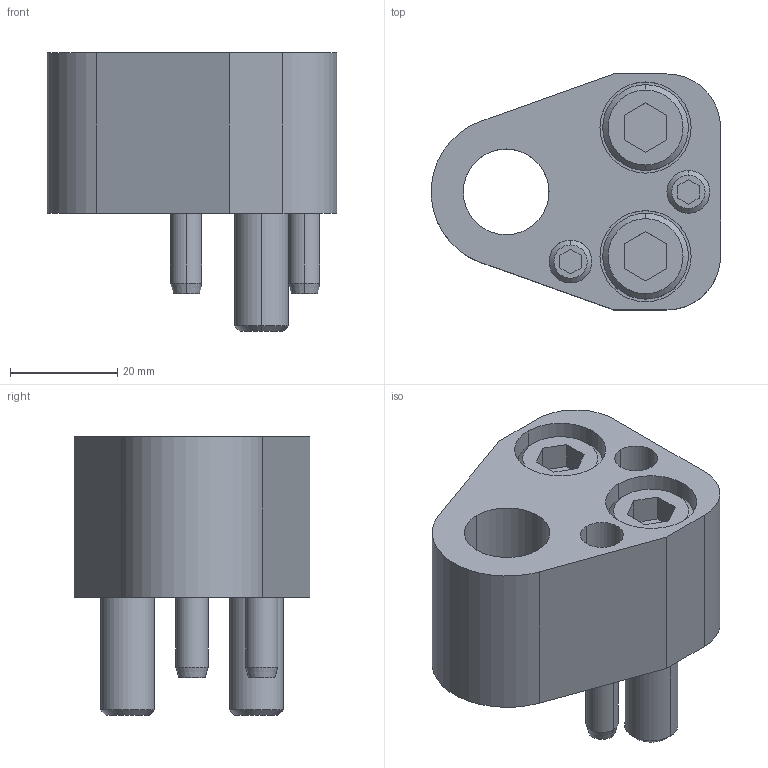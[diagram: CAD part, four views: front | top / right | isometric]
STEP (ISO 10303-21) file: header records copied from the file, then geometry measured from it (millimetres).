
FILE_DESCRIPTION(/* description */ (''),/* implementation_level */ '2;1');
FILE_NAME(/* name */ '3d_cpar16_02844_r00.stp',/* time_stamp */ '2011-01-10T14:16:26+09:00',/* author */ ('MISUMI'),/* organization */ (''),/* preprocessor_version */ 'ST-DEVELOPER v11',/* originating_system */ 'UGS - NX 5.0',/* authorisation */ '');
FILE_SCHEMA (('CONFIG_CONTROL_DESIGN'));
Length unit declared in the file: millimetre
Products named in the file (1): 3d_cpar16_02844_r00
Bounding box: 53.95 x 44 x 52 mm (x, y, z)
Volume: 50519.3 mm3; surface area: 19751.1 mm2
Topology: 7 solids, 7 shells, 135 faces, 292 edges, 186 vertices
Faces by surface type: plane 60, cylinder 49, cone 26
Entity records: 3816 total; most frequent: DIRECTION 684, CARTESIAN_POINT 662, ORIENTED_EDGE 584, EDGE_CURVE 292, AXIS2_PLACEMENT_3D 260, VERTEX_POINT 186, LINE 164, VECTOR 164
